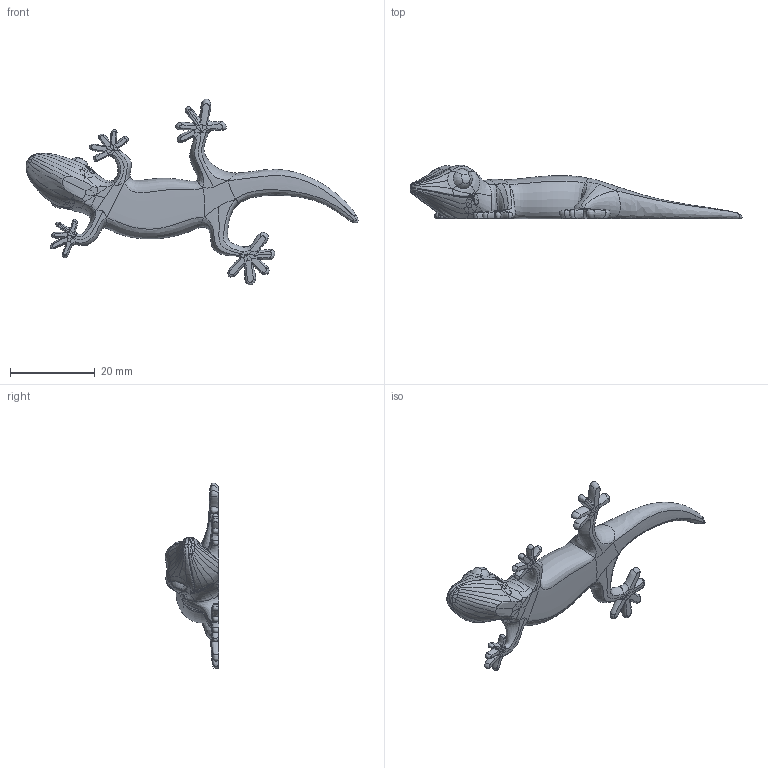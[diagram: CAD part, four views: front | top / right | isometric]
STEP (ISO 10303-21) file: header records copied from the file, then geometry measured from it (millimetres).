
FILE_DESCRIPTION (( 'STEP AP203' ), '1' );
FILE_NAME ('gecko_even_better2.STEP', '2016-02-21T09:02:51', ( '' ), ( '' ), 'SwSTEP 2.0', 'SolidWorks 2015', '' );
FILE_SCHEMA (( 'CONFIG_CONTROL_DESIGN' ));
Products named in the file (1): gecko_even_better2
Bounding box: 78.23 x 12.67 x 43.8 mm (x, y, z)
Volume: 6028 mm3; surface area: 3215 mm2
Topology: 1 solids, 1 shells, 311 faces, 693 edges, 384 vertices
Faces by surface type: bspline 311
Entity records: 268051 total; most frequent: CARTESIAN_POINT 263567, ORIENTED_EDGE 1386, EDGE_CURVE 693, B_SPLINE_CURVE_WITH_KNOTS 693, VERTEX_POINT 384, FACE_OUTER_BOUND 311, EDGE_LOOP 311, ADVANCED_FACE 311
